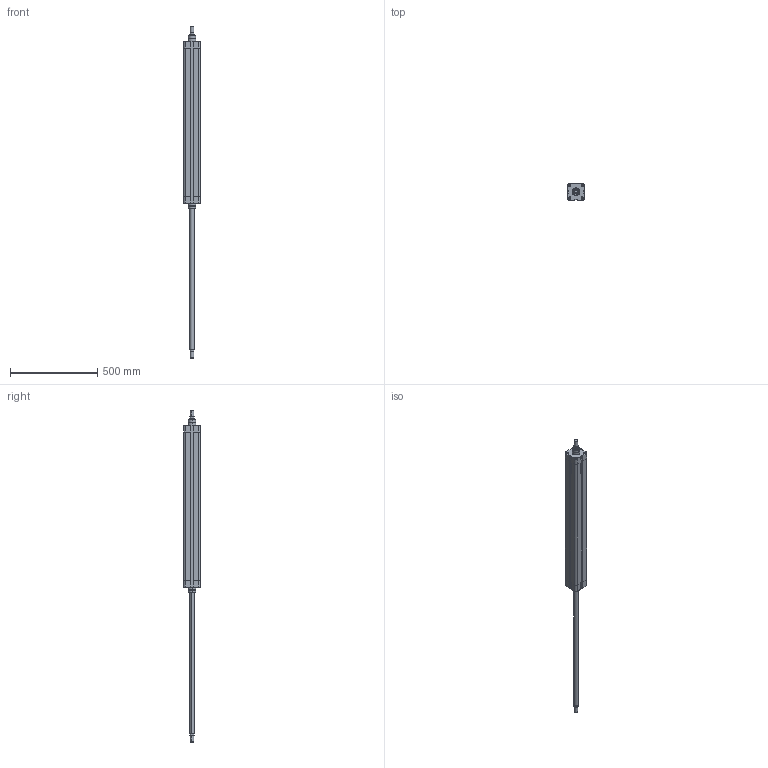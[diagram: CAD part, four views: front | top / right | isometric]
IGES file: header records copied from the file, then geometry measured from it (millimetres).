
Global section: file name: No Iges File Name specified; native system: AutoDesk Inventor R6.1; preprocessor: AutoDesk Inventor Iges Exporter R6.1; author: No Author specified; organization: No Organization specified; date: 20040107.171535; units: millimetre
Bounding box: 95.5 x 95.5 x 1900 mm (x, y, z)
Volume: 8640196.3 mm3; surface area: 645025.3 mm2
Topology: 2 solids, 2 shells, 236 faces, 564 edges, 356 vertices
Faces by surface type: plane 80, bspline 62, cylinder 42, revolution 32, cone 16, torus 4
